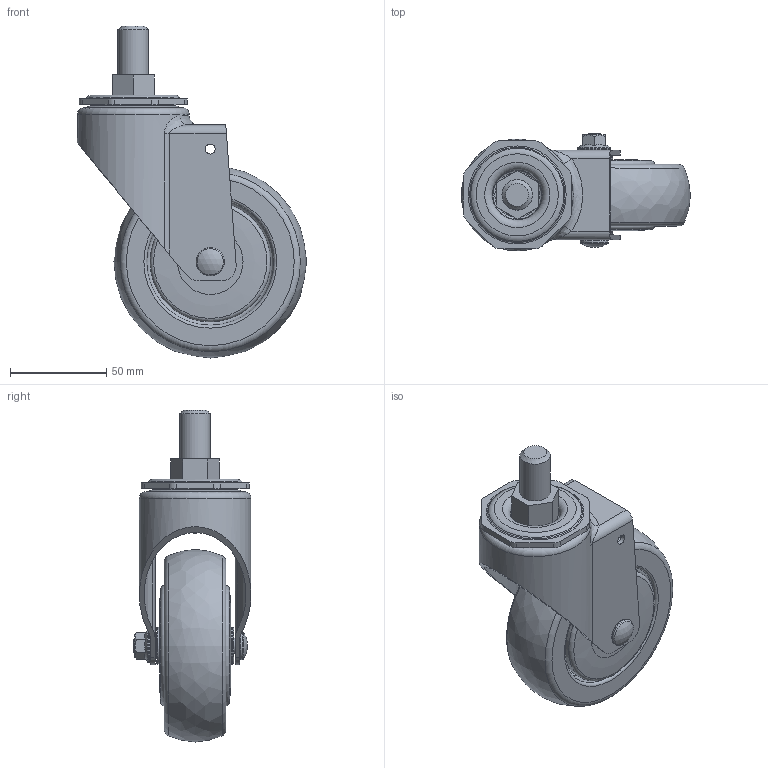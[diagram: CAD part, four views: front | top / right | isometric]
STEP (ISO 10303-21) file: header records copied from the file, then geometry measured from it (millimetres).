
FILE_DESCRIPTION((''),'2;1');
FILE_NAME('C:\Documents and Settings\Administrator\바탕 화면\3D STEP\PL-SERIES\PL-100-ASS\PL-100-ASS.stp','2010-12-27T15:00:09',('Administrator'),(''),'Autodesk Inventor 2009','Autodesk Inventor 2009','');
FILE_SCHEMA(('AUTOMOTIVE_DESIGN { 1 0 10303 214 1 1 1 1 }'));
Length unit declared in the file: millimetre
Products named in the file (1): PL-100-ASS
Bounding box: 118.97 x 61.25 x 172.4 mm (x, y, z)
Volume: 269182.2 mm3; surface area: 109525.1 mm2
Topology: 11 solids, 11 shells, 488 faces, 1159 edges, 731 vertices
Faces by surface type: plane 192, cylinder 160, torus 58, bspline 45, cone 32, sphere 1
Full cylindrical faces by diameter (mm): 5.2 x2, 8 x1, 8.2 x2, 12.5 x1, 14.6 x1, 15 x3, 15.5 x1, 15.875 x1, 16.9 x1, 17 x2, 19 x2, 21.667 x2, 21.867 x2, 24.667 x2, 28.133 x2, 28.333 x2, 32.333 x2, 32.4 x2, 34 x1, 36 x1, 40 x1, 41 x1, 43 x2, 47 x2, 53 x1, 58 x1, 59.5 x2, 62.5 x2, 66 x2
Entity records: 15416 total; most frequent: CARTESIAN_POINT 5196, DIRECTION 2158, ORIENTED_EDGE 1862, EDGE_CURVE 931, AXIS2_PLACEMENT_3D 895, EDGE_LOOP 715, VERTEX_POINT 658, FACE_OUTER_BOUND 488
